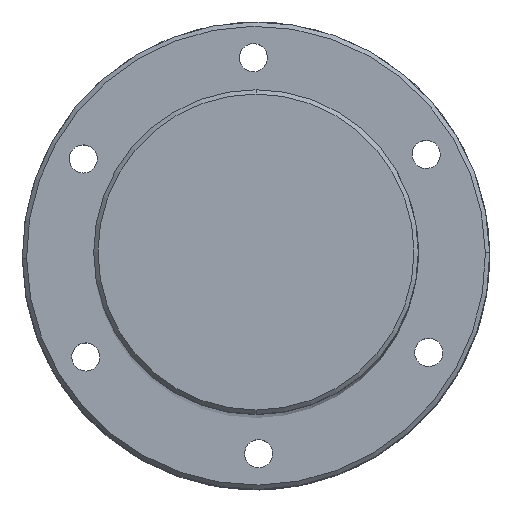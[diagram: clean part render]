
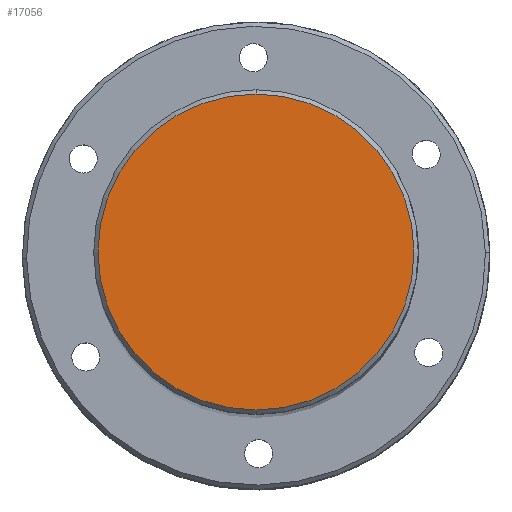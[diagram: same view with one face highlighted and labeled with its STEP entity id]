
A CAD part, top view. The second image highlights one B-rep face of the part: STEP entity #17056.
In plain terms, the highlighted planar face has unit normal (0, 0, 1) as drawn and (-1, 0, 0) by its records, which use the part's own axes.
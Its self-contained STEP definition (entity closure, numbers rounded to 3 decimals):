
#305 = DIRECTION ( 'NONE',  ( 1., 0., 0. ) ) ;
#1088 = EDGE_CURVE ( 'NONE', #8506, #15192, #15371, .T. ) ;
#1331 = FACE_OUTER_BOUND ( 'NONE', #12795, .T. ) ;
#3374 = DIRECTION ( 'NONE',  ( 0., 0., -1. ) ) ;
#4374 = DIRECTION ( 'NONE',  ( 0., 0., -1. ) ) ;
#4958 = CARTESIAN_POINT ( 'NONE',  ( 0., 0., 36.5 ) ) ;
#5503 = DIRECTION ( 'NONE',  ( -1., 0., 0. ) ) ;
#7079 = ORIENTED_EDGE ( 'NONE', *, *, #15448, .T. ) ;
#7222 = ORIENTED_EDGE ( 'NONE', *, *, #1088, .T. ) ;
#8000 = AXIS2_PLACEMENT_3D ( 'NONE', #15552, #305, #4374 ) ;
#8506 = VERTEX_POINT ( 'NONE', #4958 ) ;
#8699 = DIRECTION ( 'NONE',  ( -1., 0., 0. ) ) ;
#9295 = CARTESIAN_POINT ( 'NONE',  ( 0., 0., 0. ) ) ;
#10840 = DIRECTION ( 'NONE',  ( 0., 0., -1. ) ) ;
#12339 = CIRCLE ( 'NONE', #13925, 36.5 ) ;
#12753 = AXIS2_PLACEMENT_3D ( 'NONE', #15518, #8699, #3374 ) ;
#12795 = EDGE_LOOP ( 'NONE', ( #7079, #7222 ) ) ;
#12821 = PLANE ( 'NONE',  #8000 ) ;
#13925 = AXIS2_PLACEMENT_3D ( 'NONE', #9295, #5503, #10840 ) ;
#14835 = CARTESIAN_POINT ( 'NONE',  ( 0., 0., -36.5 ) ) ;
#15192 = VERTEX_POINT ( 'NONE', #14835 ) ;
#15371 = CIRCLE ( 'NONE', #12753, 36.5 ) ;
#15448 = EDGE_CURVE ( 'NONE', #15192, #8506, #12339, .T. ) ;
#15518 = CARTESIAN_POINT ( 'NONE',  ( 0., 0., 0. ) ) ;
#15552 = CARTESIAN_POINT ( 'NONE',  ( 0., 0., 0. ) ) ;
#17056 = ADVANCED_FACE ( 'NONE', ( #1331 ), #12821, .F. ) ;
